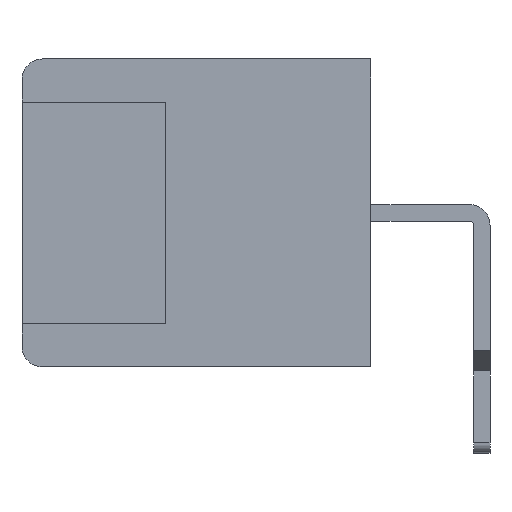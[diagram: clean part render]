
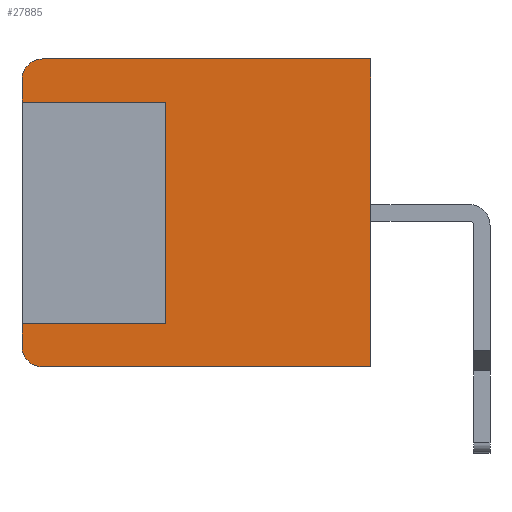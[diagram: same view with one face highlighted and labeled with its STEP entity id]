
A CAD part, left-side view. The second image highlights one B-rep face of the part: STEP entity #27885.
In plain terms, the highlighted planar face has unit normal (-1, 0, 0).
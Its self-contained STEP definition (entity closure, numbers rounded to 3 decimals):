
#63=DIRECTION('',(0.,0.,-1.));
#64=VECTOR('',#63,15.);
#65=CARTESIAN_POINT('',(49.963,0.,0.));
#66=LINE('',#65,#64);
#1603=DIRECTION('',(0.,1.,0.));
#1604=VECTOR('',#1603,16.);
#1605=CARTESIAN_POINT('',(49.963,0.,-15.));
#1606=LINE('',#1605,#1604);
#1652=DIRECTION('',(0.,0.,1.));
#1653=VECTOR('',#1652,1.1);
#1654=CARTESIAN_POINT('',(49.963,17.,-14.));
#1655=LINE('',#1654,#1653);
#1656=DIRECTION('',(0.,0.,1.));
#1657=VECTOR('',#1656,1.1);
#1658=CARTESIAN_POINT('',(49.963,17.,-2.1));
#1659=LINE('',#1658,#1657);
#1660=DIRECTION('',(0.,-1.,0.));
#1661=VECTOR('',#1660,7.);
#1662=CARTESIAN_POINT('',(49.963,17.,-12.9));
#1663=LINE('',#1662,#1661);
#1668=DIRECTION('',(0.,0.,1.));
#1669=VECTOR('',#1668,10.8);
#1670=CARTESIAN_POINT('',(49.963,10.,-12.9));
#1671=LINE('',#1670,#1669);
#1680=DIRECTION('',(0.,1.,0.));
#1681=VECTOR('',#1680,7.);
#1682=CARTESIAN_POINT('',(49.963,10.,-2.1));
#1683=LINE('',#1682,#1681);
#1684=CARTESIAN_POINT('',(49.963,16.,-1.));
#1685=DIRECTION('',(-1.,0.,0.));
#1686=DIRECTION('',(0.,0.,1.));
#1687=AXIS2_PLACEMENT_3D('',#1684,#1685,#1686);
#1689=DIRECTION('',(0.,1.,0.));
#1690=VECTOR('',#1689,16.);
#1691=CARTESIAN_POINT('',(49.963,0.,0.));
#1692=LINE('',#1691,#1690);
#1693=CARTESIAN_POINT('',(49.963,16.,-14.));
#1694=DIRECTION('',(-1.,0.,0.));
#1695=DIRECTION('',(0.,1.,0.));
#1696=AXIS2_PLACEMENT_3D('',#1693,#1694,#1695);
#23992=CARTESIAN_POINT('',(49.963,0.,0.));
#23993=CARTESIAN_POINT('',(49.963,16.,0.));
#23994=VERTEX_POINT('',#23992);
#23995=VERTEX_POINT('',#23993);
#24008=CARTESIAN_POINT('',(49.963,17.,-12.9));
#24009=CARTESIAN_POINT('',(49.963,10.,-12.9));
#24010=VERTEX_POINT('',#24008);
#24011=VERTEX_POINT('',#24009);
#24012=CARTESIAN_POINT('',(49.963,10.,-2.1));
#24013=VERTEX_POINT('',#24012);
#24014=CARTESIAN_POINT('',(49.963,17.,-2.1));
#24015=VERTEX_POINT('',#24014);
#24016=CARTESIAN_POINT('',(49.963,17.,-1.));
#24017=VERTEX_POINT('',#24016);
#24018=CARTESIAN_POINT('',(49.963,0.,-15.));
#24019=VERTEX_POINT('',#24018);
#24020=CARTESIAN_POINT('',(49.963,16.,-15.));
#24021=VERTEX_POINT('',#24020);
#24022=CARTESIAN_POINT('',(49.963,17.,-14.));
#24023=VERTEX_POINT('',#24022);
#27866=CARTESIAN_POINT('',(49.963,0.,0.));
#27867=DIRECTION('',(-1.,0.,0.));
#27868=DIRECTION('',(0.,0.,1.));
#27869=AXIS2_PLACEMENT_3D('',#27866,#27867,#27868);
#27870=PLANE('',#27869);
#27871=ORIENTED_EDGE('',*,*,#27798,.T.);
#27872=ORIENTED_EDGE('',*,*,#27829,.T.);
#27873=ORIENTED_EDGE('',*,*,#27844,.T.);
#27874=ORIENTED_EDGE('',*,*,#27858,.T.);
#27875=ORIENTED_EDGE('',*,*,#27813,.T.);
#27877=ORIENTED_EDGE('',*,*,#27876,.F.);
#27878=ORIENTED_EDGE('',*,*,#25552,.F.);
#27879=ORIENTED_EDGE('',*,*,#25638,.T.);
#27880=ORIENTED_EDGE('',*,*,#27725,.T.);
#27882=ORIENTED_EDGE('',*,*,#27881,.F.);
#27883=EDGE_LOOP('',(#27871,#27872,#27873,#27874,#27875,#27877,#27878,#27879,
#27880,#27882));
#27884=FACE_OUTER_BOUND('',#27883,.F.);
#27885=ADVANCED_FACE('',(#27884),#27870,.T.);
#1688=CIRCLE('',#1687,1.);
#1697=CIRCLE('',#1696,1.);
#25552=EDGE_CURVE('',#23994,#23995,#1692,.T.);
#25638=EDGE_CURVE('',#23994,#24019,#66,.T.);
#27725=EDGE_CURVE('',#24019,#24021,#1606,.T.);
#27798=EDGE_CURVE('',#24023,#24010,#1655,.T.);
#27813=EDGE_CURVE('',#24015,#24017,#1659,.T.);
#27829=EDGE_CURVE('',#24010,#24011,#1663,.T.);
#27844=EDGE_CURVE('',#24011,#24013,#1671,.T.);
#27858=EDGE_CURVE('',#24013,#24015,#1683,.T.);
#27876=EDGE_CURVE('',#23995,#24017,#1688,.T.);
#27881=EDGE_CURVE('',#24023,#24021,#1697,.T.);
